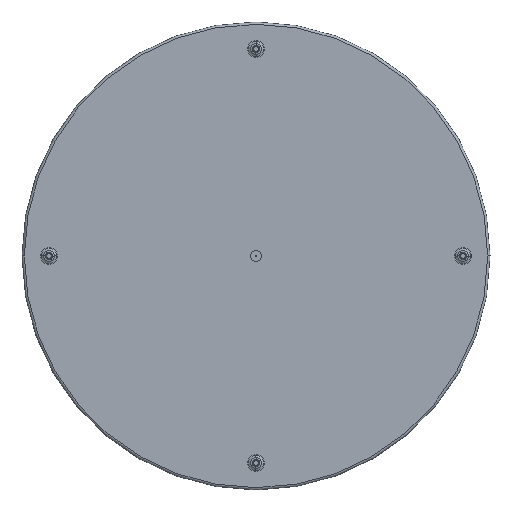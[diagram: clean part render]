
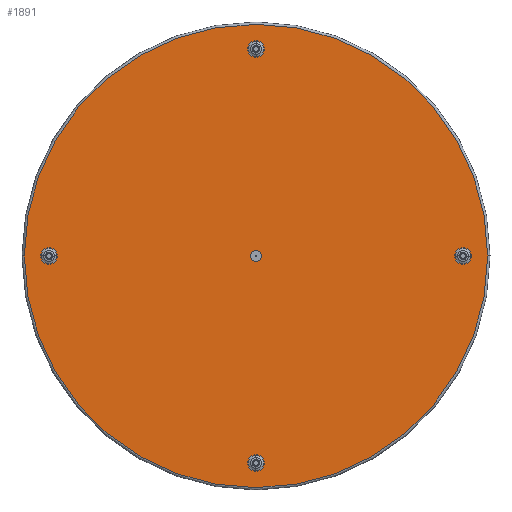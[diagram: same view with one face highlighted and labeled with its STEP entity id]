
A CAD part, front view. The second image highlights one B-rep face of the part: STEP entity #1891.
In plain terms, the highlighted planar face has unit normal (0, -1, 0).
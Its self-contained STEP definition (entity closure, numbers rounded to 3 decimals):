
#19=CARTESIAN_POINT('',(0.,0.,0.));
#20=DIRECTION('',(0.,1.,0.));
#21=DIRECTION('',(1.,0.,0.));
#22=AXIS2_PLACEMENT_3D('',#19,#20,#21);
#28=CARTESIAN_POINT('',(0.,0.,0.));
#29=DIRECTION('',(0.,1.,0.));
#30=DIRECTION('',(1.,0.,-0.001));
#31=AXIS2_PLACEMENT_3D('',#28,#29,#30);
#36=CARTESIAN_POINT('',(0.,0.,0.));
#37=DIRECTION('',(0.,1.,0.));
#38=DIRECTION('',(-1.,0.,0.));
#39=AXIS2_PLACEMENT_3D('',#36,#37,#38);
#44=CARTESIAN_POINT('',(0.,0.,0.));
#45=DIRECTION('',(0.,1.,0.));
#46=DIRECTION('',(-1.,0.,0.001));
#47=AXIS2_PLACEMENT_3D('',#44,#45,#46);
#52=CARTESIAN_POINT('',(0.,0.,0.));
#53=DIRECTION('',(0.,-1.,0.));
#54=DIRECTION('',(0.,0.,-1.));
#55=AXIS2_PLACEMENT_3D('',#52,#53,#54);
#60=CARTESIAN_POINT('',(0.,0.,0.));
#61=DIRECTION('',(0.,-1.,0.));
#62=DIRECTION('',(0.,0.,1.));
#63=AXIS2_PLACEMENT_3D('',#60,#61,#62);
#68=CARTESIAN_POINT('',(-265.4,0.,0.));
#69=DIRECTION('',(0.,-1.,0.));
#70=DIRECTION('',(1.,0.,0.));
#71=AXIS2_PLACEMENT_3D('',#68,#69,#70);
#76=CARTESIAN_POINT('',(-265.4,0.,0.));
#77=DIRECTION('',(0.,-1.,0.));
#78=DIRECTION('',(-1.,0.,0.));
#79=AXIS2_PLACEMENT_3D('',#76,#77,#78);
#84=CARTESIAN_POINT('',(0.,0.,265.4));
#85=DIRECTION('',(0.,-1.,0.));
#86=DIRECTION('',(0.,0.,-1.));
#87=AXIS2_PLACEMENT_3D('',#84,#85,#86);
#92=CARTESIAN_POINT('',(0.,0.,265.4));
#93=DIRECTION('',(0.,-1.,0.));
#94=DIRECTION('',(0.,0.,1.));
#95=AXIS2_PLACEMENT_3D('',#92,#93,#94);
#100=CARTESIAN_POINT('',(265.4,0.,0.));
#101=DIRECTION('',(0.,-1.,0.));
#102=DIRECTION('',(-1.,0.,0.));
#103=AXIS2_PLACEMENT_3D('',#100,#101,#102);
#108=CARTESIAN_POINT('',(265.4,0.,0.));
#109=DIRECTION('',(0.,-1.,0.));
#110=DIRECTION('',(1.,0.,0.));
#111=AXIS2_PLACEMENT_3D('',#108,#109,#110);
#116=CARTESIAN_POINT('',(0.,0.,-265.4));
#117=DIRECTION('',(0.,-1.,0.));
#118=DIRECTION('',(0.,0.,1.));
#119=AXIS2_PLACEMENT_3D('',#116,#117,#118);
#124=CARTESIAN_POINT('',(0.,0.,-265.4));
#125=DIRECTION('',(0.,-1.,0.));
#126=DIRECTION('',(0.,0.,-1.));
#127=AXIS2_PLACEMENT_3D('',#124,#125,#126);
#863=CARTESIAN_POINT('',(-265.4,0.,0.));
#864=DIRECTION('',(0.,1.,0.));
#865=DIRECTION('',(1.,0.,0.));
#866=AXIS2_PLACEMENT_3D('',#863,#864,#865);
#895=CARTESIAN_POINT('',(-265.4,0.,0.));
#896=DIRECTION('',(0.,1.,0.));
#897=DIRECTION('',(-1.,0.,0.));
#898=AXIS2_PLACEMENT_3D('',#895,#896,#897);
#1067=CARTESIAN_POINT('',(0.,0.,265.4));
#1068=DIRECTION('',(0.,1.,0.));
#1069=DIRECTION('',(0.,0.,-1.));
#1070=AXIS2_PLACEMENT_3D('',#1067,#1068,#1069);
#1099=CARTESIAN_POINT('',(0.,0.,265.4));
#1100=DIRECTION('',(0.,1.,0.));
#1101=DIRECTION('',(0.,0.,1.));
#1102=AXIS2_PLACEMENT_3D('',#1099,#1100,#1101);
#1271=CARTESIAN_POINT('',(265.4,0.,0.));
#1272=DIRECTION('',(0.,1.,0.));
#1273=DIRECTION('',(-1.,0.,0.));
#1274=AXIS2_PLACEMENT_3D('',#1271,#1272,#1273);
#1303=CARTESIAN_POINT('',(265.4,0.,0.));
#1304=DIRECTION('',(0.,1.,0.));
#1305=DIRECTION('',(1.,0.,0.));
#1306=AXIS2_PLACEMENT_3D('',#1303,#1304,#1305);
#1475=CARTESIAN_POINT('',(0.,0.,-265.4));
#1476=DIRECTION('',(0.,1.,0.));
#1477=DIRECTION('',(0.,0.,1.));
#1478=AXIS2_PLACEMENT_3D('',#1475,#1476,#1477);
#1507=CARTESIAN_POINT('',(0.,0.,-265.4));
#1508=DIRECTION('',(0.,1.,0.));
#1509=DIRECTION('',(0.,0.,-1.));
#1510=AXIS2_PLACEMENT_3D('',#1507,#1508,#1509);
#1546=CARTESIAN_POINT('',(297.,0.,-0.216));
#1547=CARTESIAN_POINT('',(-297.,0.,0.));
#1548=VERTEX_POINT('',#1546);
#1549=VERTEX_POINT('',#1547);
#1550=CARTESIAN_POINT('',(297.,0.,0.));
#1551=VERTEX_POINT('',#1550);
#1552=CARTESIAN_POINT('',(-297.,0.,0.216));
#1553=VERTEX_POINT('',#1552);
#1554=CARTESIAN_POINT('',(0.,0.,-7.25));
#1555=CARTESIAN_POINT('',(0.,0.,7.25));
#1556=VERTEX_POINT('',#1554);
#1557=VERTEX_POINT('',#1555);
#1558=CARTESIAN_POINT('',(-254.886,0.,0.));
#1559=CARTESIAN_POINT('',(-275.912,0.,0.191));
#1560=VERTEX_POINT('',#1558);
#1561=VERTEX_POINT('',#1559);
#1562=CARTESIAN_POINT('',(-275.914,0.,0.));
#1563=VERTEX_POINT('',#1562);
#1564=CARTESIAN_POINT('',(-254.888,0.,-0.191));
#1565=VERTEX_POINT('',#1564);
#1566=CARTESIAN_POINT('',(0.,0.,254.886));
#1567=CARTESIAN_POINT('',(0.191,0.,275.912));
#1568=VERTEX_POINT('',#1566);
#1569=VERTEX_POINT('',#1567);
#1570=CARTESIAN_POINT('',(0.,0.,275.914));
#1571=VERTEX_POINT('',#1570);
#1572=CARTESIAN_POINT('',(-0.191,0.,254.888));
#1573=VERTEX_POINT('',#1572);
#1574=CARTESIAN_POINT('',(254.886,0.,0.));
#1575=CARTESIAN_POINT('',(275.912,0.,-0.191));
#1576=VERTEX_POINT('',#1574);
#1577=VERTEX_POINT('',#1575);
#1578=CARTESIAN_POINT('',(275.914,0.,0.));
#1579=VERTEX_POINT('',#1578);
#1580=CARTESIAN_POINT('',(254.888,0.,0.191));
#1581=VERTEX_POINT('',#1580);
#1582=CARTESIAN_POINT('',(0.,0.,-254.886));
#1583=CARTESIAN_POINT('',(-0.191,0.,-275.912));
#1584=VERTEX_POINT('',#1582);
#1585=VERTEX_POINT('',#1583);
#1586=CARTESIAN_POINT('',(0.,0.,-275.914));
#1587=VERTEX_POINT('',#1586);
#1588=CARTESIAN_POINT('',(0.191,0.,-254.888));
#1589=VERTEX_POINT('',#1588);
#1830=CARTESIAN_POINT('',(0.,0.,0.));
#1831=DIRECTION('',(0.,1.,0.));
#1832=DIRECTION('',(1.,0.,0.));
#1833=AXIS2_PLACEMENT_3D('',#1830,#1831,#1832);
#1834=PLANE('',#1833);
#1836=ORIENTED_EDGE('',*,*,#1835,.T.);
#1838=ORIENTED_EDGE('',*,*,#1837,.T.);
#1840=ORIENTED_EDGE('',*,*,#1839,.T.);
#1842=ORIENTED_EDGE('',*,*,#1841,.T.);
#1843=EDGE_LOOP('',(#1836,#1838,#1840,#1842));
#1844=FACE_OUTER_BOUND('',#1843,.F.);
#1846=ORIENTED_EDGE('',*,*,#1845,.T.);
#1848=ORIENTED_EDGE('',*,*,#1847,.T.);
#1849=EDGE_LOOP('',(#1846,#1848));
#1850=FACE_BOUND('',#1849,.F.);
#1852=ORIENTED_EDGE('',*,*,#1851,.T.);
#1854=ORIENTED_EDGE('',*,*,#1853,.F.);
#1856=ORIENTED_EDGE('',*,*,#1855,.T.);
#1858=ORIENTED_EDGE('',*,*,#1857,.F.);
#1859=EDGE_LOOP('',(#1852,#1854,#1856,#1858));
#1860=FACE_BOUND('',#1859,.F.);
#1862=ORIENTED_EDGE('',*,*,#1861,.T.);
#1864=ORIENTED_EDGE('',*,*,#1863,.F.);
#1866=ORIENTED_EDGE('',*,*,#1865,.T.);
#1868=ORIENTED_EDGE('',*,*,#1867,.F.);
#1869=EDGE_LOOP('',(#1862,#1864,#1866,#1868));
#1870=FACE_BOUND('',#1869,.F.);
#1872=ORIENTED_EDGE('',*,*,#1871,.T.);
#1874=ORIENTED_EDGE('',*,*,#1873,.F.);
#1876=ORIENTED_EDGE('',*,*,#1875,.T.);
#1878=ORIENTED_EDGE('',*,*,#1877,.F.);
#1879=EDGE_LOOP('',(#1872,#1874,#1876,#1878));
#1880=FACE_BOUND('',#1879,.F.);
#1882=ORIENTED_EDGE('',*,*,#1881,.T.);
#1884=ORIENTED_EDGE('',*,*,#1883,.F.);
#1886=ORIENTED_EDGE('',*,*,#1885,.T.);
#1888=ORIENTED_EDGE('',*,*,#1887,.F.);
#1889=EDGE_LOOP('',(#1882,#1884,#1886,#1888));
#1890=FACE_BOUND('',#1889,.F.);
#1891=ADVANCED_FACE('',(#1844,#1850,#1860,#1870,#1880,#1890),#1834,.F.);
#23=CIRCLE('',#22,297.);
#32=CIRCLE('',#31,297.);
#40=CIRCLE('',#39,297.);
#48=CIRCLE('',#47,297.);
#56=CIRCLE('',#55,7.25);
#64=CIRCLE('',#63,7.25);
#72=CIRCLE('',#71,10.514);
#80=CIRCLE('',#79,10.514);
#88=CIRCLE('',#87,10.514);
#96=CIRCLE('',#95,10.514);
#104=CIRCLE('',#103,10.514);
#112=CIRCLE('',#111,10.514);
#120=CIRCLE('',#119,10.514);
#128=CIRCLE('',#127,10.514);
#867=CIRCLE('',#866,10.514);
#899=CIRCLE('',#898,10.514);
#1071=CIRCLE('',#1070,10.514);
#1103=CIRCLE('',#1102,10.514);
#1275=CIRCLE('',#1274,10.514);
#1307=CIRCLE('',#1306,10.514);
#1479=CIRCLE('',#1478,10.514);
#1511=CIRCLE('',#1510,10.514);
#1835=EDGE_CURVE('',#1551,#1548,#23,.T.);
#1837=EDGE_CURVE('',#1548,#1549,#32,.T.);
#1839=EDGE_CURVE('',#1549,#1553,#40,.T.);
#1841=EDGE_CURVE('',#1553,#1551,#48,.T.);
#1845=EDGE_CURVE('',#1556,#1557,#56,.T.);
#1847=EDGE_CURVE('',#1557,#1556,#64,.T.);
#1851=EDGE_CURVE('',#1560,#1561,#72,.T.);
#1853=EDGE_CURVE('',#1563,#1561,#899,.T.);
#1855=EDGE_CURVE('',#1563,#1565,#80,.T.);
#1857=EDGE_CURVE('',#1560,#1565,#867,.T.);
#1861=EDGE_CURVE('',#1568,#1569,#88,.T.);
#1863=EDGE_CURVE('',#1571,#1569,#1103,.T.);
#1865=EDGE_CURVE('',#1571,#1573,#96,.T.);
#1867=EDGE_CURVE('',#1568,#1573,#1071,.T.);
#1871=EDGE_CURVE('',#1576,#1577,#104,.T.);
#1873=EDGE_CURVE('',#1579,#1577,#1307,.T.);
#1875=EDGE_CURVE('',#1579,#1581,#112,.T.);
#1877=EDGE_CURVE('',#1576,#1581,#1275,.T.);
#1881=EDGE_CURVE('',#1584,#1585,#120,.T.);
#1883=EDGE_CURVE('',#1587,#1585,#1511,.T.);
#1885=EDGE_CURVE('',#1587,#1589,#128,.T.);
#1887=EDGE_CURVE('',#1584,#1589,#1479,.T.);
